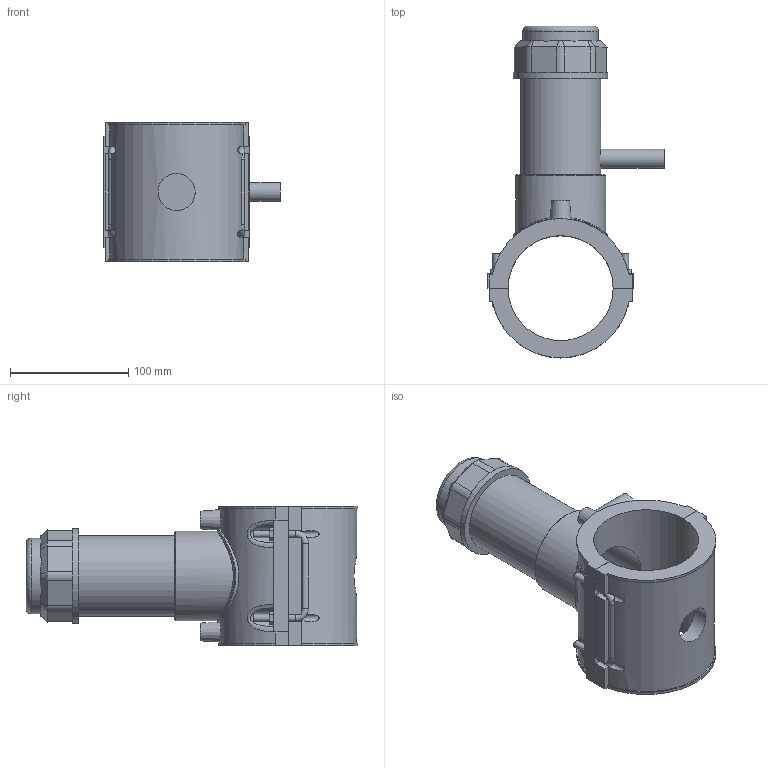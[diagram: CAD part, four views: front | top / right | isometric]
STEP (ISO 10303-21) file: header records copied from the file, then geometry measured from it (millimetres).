
FILE_DESCRIPTION(/* description */ ('PLASSON TAPPING SADDLE 3''''IPS x 1 1/2''''CTS'),/* implementation_level */ '2;1');
FILE_NAME(/* name */ 'C:\Dropbox\KIMPROJECTS-Inventor 2019\99-16-3568-Processing Inch\ASTM ElectroFusion 2021\5963B\5963BU03030005.ipt.stp',/* time_stamp */ '2021-08-30T09:56:23+03:00',/* author */ ('KIM'),/* organization */ (''),/* preprocessor_version */ 'ST-DEVELOPER v17.2',/* originating_system */ 'Autodesk Inventor 2019',/* authorisation */ '');
FILE_SCHEMA (('AUTOMOTIVE_DESIGN { 1 0 10303 214 3 1 1 }'));
Length unit declared in the file: millimetre
Products named in the file (1): 5963BU03030005
Bounding box: 148.83 x 280.2 x 118.11 mm (x, y, z)
Volume: 851530.9 mm3; surface area: 170203.8 mm2
Topology: 1 solids, 1 shells, 211 faces, 568 edges, 375 vertices
Faces by surface type: plane 128, cylinder 57, cone 15, bspline 6, torus 5
Full cylindrical faces by diameter (mm): 4 x2, 6 x7, 10 x2, 12.64 x1, 15.8 x1, 31.36 x1, 55.881 x1, 63.864 x1, 67.856 x1, 75.838 x1, 79.83 x1
Entity records: 8453 total; most frequent: CARTESIAN_POINT 3066, ORIENTED_EDGE 1158, DIRECTION 1055, EDGE_CURVE 579, VERTEX_POINT 375, AXIS2_PLACEMENT_3D 357, LINE 341, VECTOR 341
